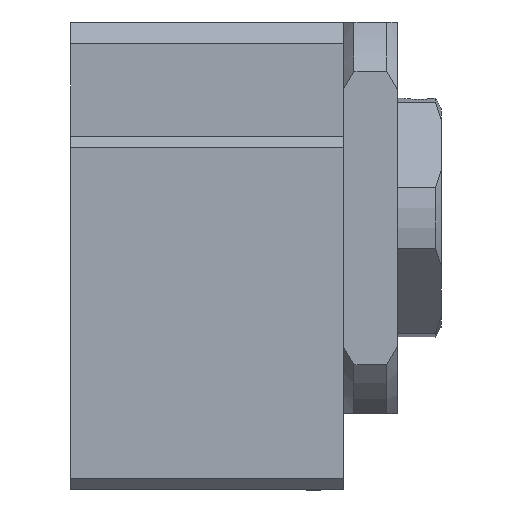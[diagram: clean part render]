
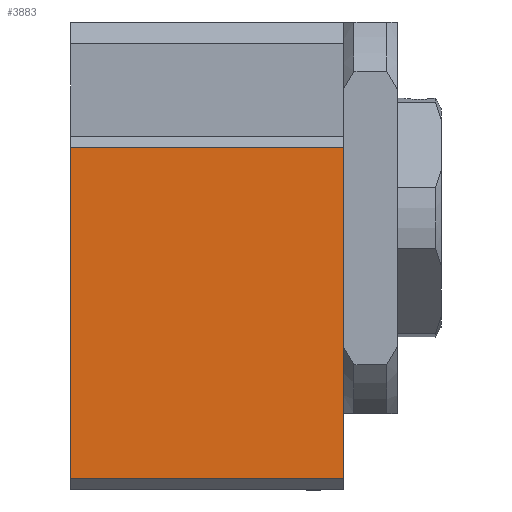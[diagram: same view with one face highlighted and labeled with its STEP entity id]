
A CAD part, left-side view. The second image highlights one B-rep face of the part: STEP entity #3883.
In plain terms, the highlighted free-form (B-spline) face has degree [1, 1] with [2, 2] control points.
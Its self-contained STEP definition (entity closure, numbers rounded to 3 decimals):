
#3663=CARTESIAN_POINT('',(-30.,6.45,0.));
#3664=VERTEX_POINT('',#3663);
#3677=CARTESIAN_POINT('',(-30.,6.45,-25.));
#3678=VERTEX_POINT('',#3677);
#3684=CARTESIAN_POINT('',(-30.,6.45,-25.));
#3685=CARTESIAN_POINT('',(-30.,6.45,0.));
#3686=B_SPLINE_CURVE_WITH_KNOTS('',1,(#3684,#3685),.POLYLINE_FORM.,.F.,.U.,(2,2),(0.,1.),.UNSPECIFIED.);
#3687=EDGE_CURVE('',#3678,#3664,#3686,.T.);
#3856=CARTESIAN_POINT('',(-30.,-52.589,-84.039));
#3857=CARTESIAN_POINT('',(-30.,65.489,-84.039));
#3858=CARTESIAN_POINT('',(-30.,-52.589,34.039));
#3859=CARTESIAN_POINT('',(-30.,65.489,34.039));
#3860=B_SPLINE_SURFACE_WITH_KNOTS('',1,1,((#3856,#3857),(#3858,#3859)),.PLANE_SURF.,.F.,.F.,.U.,(2,2),(2,2),(0.,1.),(0.,1.),.UNSPECIFIED.);
#3861=CARTESIAN_POINT('',(-30.,-23.95,0.));
#3862=VERTEX_POINT('',#3861);
#3863=CARTESIAN_POINT('',(-30.,6.45,0.));
#3864=CARTESIAN_POINT('',(-30.,-23.95,0.));
#3865=B_SPLINE_CURVE_WITH_KNOTS('',1,(#3863,#3864),.POLYLINE_FORM.,.F.,.U.,(2,2),(0.,1.),.UNSPECIFIED.);
#3866=EDGE_CURVE('',#3664,#3862,#3865,.T.);
#3867=ORIENTED_EDGE('',*,*,#3866,.F.);
#3868=ORIENTED_EDGE('',*,*,#3687,.F.);
#3869=CARTESIAN_POINT('',(-30.,-23.95,-25.));
#3870=VERTEX_POINT('',#3869);
#3871=CARTESIAN_POINT('',(-30.,-23.95,-25.));
#3872=CARTESIAN_POINT('',(-30.,6.45,-25.));
#3873=B_SPLINE_CURVE_WITH_KNOTS('',1,(#3871,#3872),.POLYLINE_FORM.,.F.,.U.,(2,2),(0.,1.),.UNSPECIFIED.);
#3874=EDGE_CURVE('',#3870,#3678,#3873,.T.);
#3875=ORIENTED_EDGE('',*,*,#3874,.F.);
#3876=CARTESIAN_POINT('',(-30.,-23.95,-25.));
#3877=CARTESIAN_POINT('',(-30.,-23.95,0.));
#3878=B_SPLINE_CURVE_WITH_KNOTS('',1,(#3876,#3877),.POLYLINE_FORM.,.F.,.U.,(2,2),(0.,1.),.UNSPECIFIED.);
#3879=EDGE_CURVE('',#3870,#3862,#3878,.T.);
#3880=ORIENTED_EDGE('',*,*,#3879,.T.);
#3881=EDGE_LOOP('',(#3867,#3868,#3875,#3880));
#3882=FACE_OUTER_BOUND('',#3881,.T.);
#3883=ADVANCED_FACE('',(#3882),#3860,.T.);
